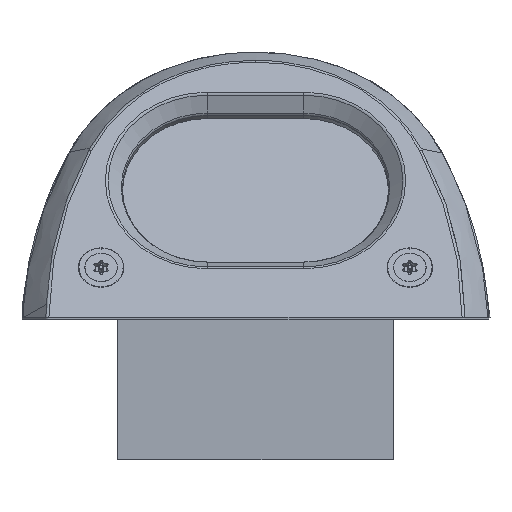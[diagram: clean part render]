
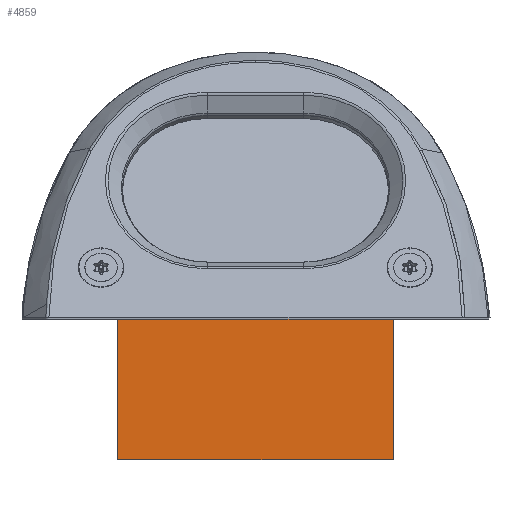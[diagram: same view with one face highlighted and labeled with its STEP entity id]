
A CAD part, front view. The second image highlights one B-rep face of the part: STEP entity #4859.
In plain terms, the highlighted planar face has unit normal (0, -1, 0) as drawn and (0, 1, 0) by its records, which use the part's own axes.
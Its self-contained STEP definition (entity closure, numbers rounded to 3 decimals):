
#170 = CARTESIAN_POINT ( 'NONE',  ( 35.75, 65.5, 36.9 ) ) ;
#214 = DIRECTION ( 'NONE',  ( 0., 0., -1. ) ) ;
#297 = EDGE_CURVE ( 'NONE', #2725, #9699, #13121, .T. ) ;
#569 = CARTESIAN_POINT ( 'NONE',  ( 35.75, 65.5, 36.9 ) ) ;
#645 = EDGE_CURVE ( 'NONE', #12573, #2725, #12460, .T. ) ;
#1183 = DIRECTION ( 'NONE',  ( 0., 0., -1. ) ) ;
#2218 = CARTESIAN_POINT ( 'NONE',  ( 35.75, 65.5, 0. ) ) ;
#2567 = DIRECTION ( 'NONE',  ( 0., -1., 0. ) ) ;
#2725 = VERTEX_POINT ( 'NONE', #2218 ) ;
#3027 = AXIS2_PLACEMENT_3D ( 'NONE', #6158, #2567, #214 ) ;
#3540 = EDGE_CURVE ( 'NONE', #12573, #10779, #3636, .T. ) ;
#3636 = LINE ( 'NONE', #11575, #11952 ) ;
#3957 = ORIENTED_EDGE ( 'NONE', *, *, #8879, .F. ) ;
#4094 = CARTESIAN_POINT ( 'NONE',  ( -35.75, 65.5, 0. ) ) ;
#4859 = ADVANCED_FACE ( 'NONE', ( #12728 ), #12875, .F. ) ;
#6158 = CARTESIAN_POINT ( 'NONE',  ( -35.75, 65.5, 36.9 ) ) ;
#6742 = ORIENTED_EDGE ( 'NONE', *, *, #3540, .F. ) ;
#7419 = VECTOR ( 'NONE', #9140, 1000. ) ;
#7512 = DIRECTION ( 'NONE',  ( -1., 0., 0. ) ) ;
#8016 = VECTOR ( 'NONE', #7512, 1000. ) ;
#8879 = EDGE_CURVE ( 'NONE', #10779, #9699, #10217, .T. ) ;
#9140 = DIRECTION ( 'NONE',  ( 0., 0., -1. ) ) ;
#9699 = VERTEX_POINT ( 'NONE', #4094 ) ;
#9869 = CARTESIAN_POINT ( 'NONE',  ( -35.75, 65.5, 0. ) ) ;
#10217 = LINE ( 'NONE', #11326, #13062 ) ;
#10245 = DIRECTION ( 'NONE',  ( -1., 0., 0. ) ) ;
#10779 = VERTEX_POINT ( 'NONE', #12045 ) ;
#11002 = ORIENTED_EDGE ( 'NONE', *, *, #645, .T. ) ;
#11326 = CARTESIAN_POINT ( 'NONE',  ( -35.75, 65.5, 36.9 ) ) ;
#11575 = CARTESIAN_POINT ( 'NONE',  ( -35.75, 65.5, 36.9 ) ) ;
#11732 = EDGE_LOOP ( 'NONE', ( #12051, #3957, #6742, #11002 ) ) ;
#11952 = VECTOR ( 'NONE', #10245, 1000. ) ;
#12045 = CARTESIAN_POINT ( 'NONE',  ( -35.75, 65.5, 36.9 ) ) ;
#12051 = ORIENTED_EDGE ( 'NONE', *, *, #297, .T. ) ;
#12460 = LINE ( 'NONE', #170, #7419 ) ;
#12573 = VERTEX_POINT ( 'NONE', #569 ) ;
#12728 = FACE_OUTER_BOUND ( 'NONE', #11732, .T. ) ;
#12875 = PLANE ( 'NONE',  #3027 ) ;
#13062 = VECTOR ( 'NONE', #1183, 1000. ) ;
#13121 = LINE ( 'NONE', #9869, #8016 ) ;
